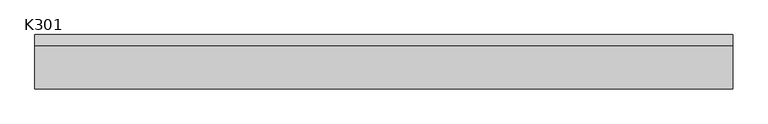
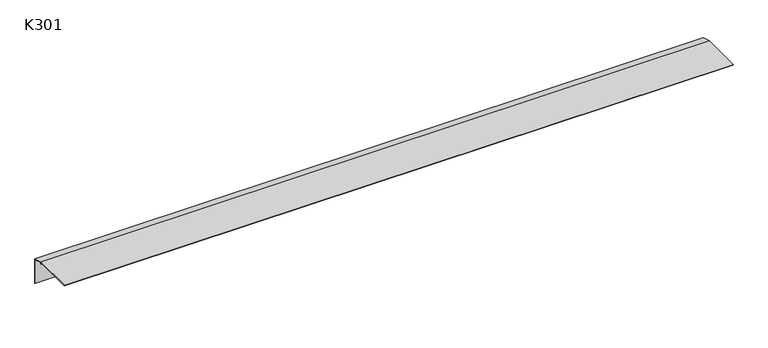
"""IFC4 building model written with IfcOpenShell, lengths in millimetres: proxy geometry, K301 Profil okapowy prosty : K301."""

from ifc_helpers import new_model, si_unit, frame, origin, place, context, project, spatial, polyline, outline, extrude, source, transform, mapped, element, save


def k301_a9cddecb(model_context):
    return source(origin(), model_context, "Body", "SweptSolid", [
        extrude(outline(polyline([(21.5, -6.0), (21.5, -56.0), (20.0, -55.4735048), (20.0, -7.116046), (1.5, -1.566046), (1.5, -4.5), (0.0, -4.5), (0.0, -1.5004157), (-77.0164314, -1.5004157), (-78.5, 0.0), (1.5, 0.0), (21.5, -6.0)])), frame((0.0, 0.0, 0.0), z_axis=(1.0, 0.0, 0.0), x_axis=(0.0, 1.0, 0.0)), (0.0, 0.0, 1.0), 1285.0),
    ])


if __name__ == "__main__":
    model = new_model("IFC4")
    model_context = context("Model", 3, world=origin())
    ifc_project = project(units=[si_unit("LENGTHUNIT", "METRE", prefix="MILLI")], contexts=[model_context])
    site = spatial("IfcSite", under=ifc_project)
    building = spatial("IfcBuilding", under=site)
    placement = place(None, origin())
    k301_shape = k301_a9cddecb(model_context)
    element("IfcBuildingElementProxy", 1, Name="K301 Profil okapowy prosty : K301", ObjectType="K301 Profil okapowy prosty : K301", at=placement, inside=building, context=model_context, shape_type="MappedRepresentation", body=[
        mapped(k301_shape, transform((0.0, 0.0, 0.0), x_axis=(1.0, 0.0, 0.0), y_axis=(0.0, 1.0, 0.0), z_axis=(0.0, 0.0, 1.0))),
    ])
    save(model, "model.ifc")
